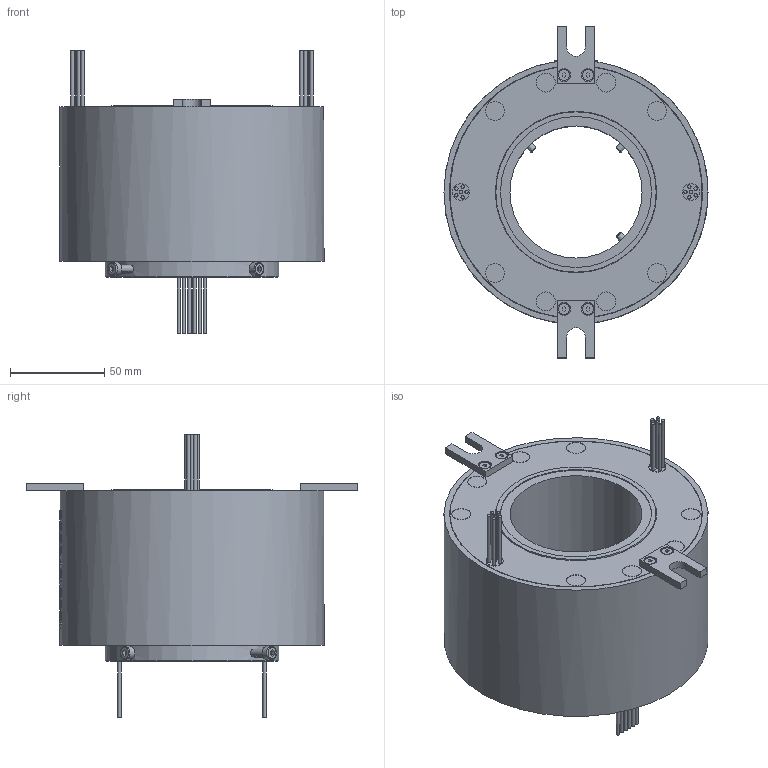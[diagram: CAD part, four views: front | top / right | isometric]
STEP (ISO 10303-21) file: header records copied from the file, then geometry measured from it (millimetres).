
FILE_DESCRIPTION(/* description */ (''),/* implementation_level */ '2;1');
FILE_NAME(/* name */ 'HD70140-1210-3D模型.stp',/* time_stamp */ '2025-09-04T15:31:29+08:00',/* author */ (''),/* organization */ (''),/* preprocessor_version */ 'ST-DEVELOPER v16.7',/* originating_system */ 'SIEMENS PLM Software NX 12.0',/* authorisation */ '');
FILE_SCHEMA (('AUTOMOTIVE_DESIGN { 1 0 10303 214 3 1 1 1 }'));
Length unit declared in the file: millimetre
Products named in the file (1): AdmiB53CE2DD1ytw
Bounding box: 140 x 176 x 150 mm (x, y, z)
Volume: 976742.7 mm3; surface area: 91206.8 mm2
Topology: 1 solids, 5 shells, 824 faces, 2137 edges, 1422 vertices
Faces by surface type: plane 373, extrusion 313, cylinder 86, bspline 30, cone 18, torus 4
Full cylindrical faces by diameter (mm): 1.8 x24, 3 x4, 3.4 x1, 3.5 x4, 4 x7, 6 x4, 7 x4, 9 x2, 10 x8, 70 x1, 80 x1, 85 x1, 85.5 x1, 92 x1, 133.8 x2, 134 x2, 140 x1
Entity records: 30530 total; most frequent: CARTESIAN_POINT 13342, ORIENTED_EDGE 4012, DIRECTION 2269, EDGE_CURVE 2006, B_SPLINE_CURVE_WITH_KNOTS 1644, VERTEX_POINT 1383, EDGE_LOOP 1023, ADVANCED_FACE 821
